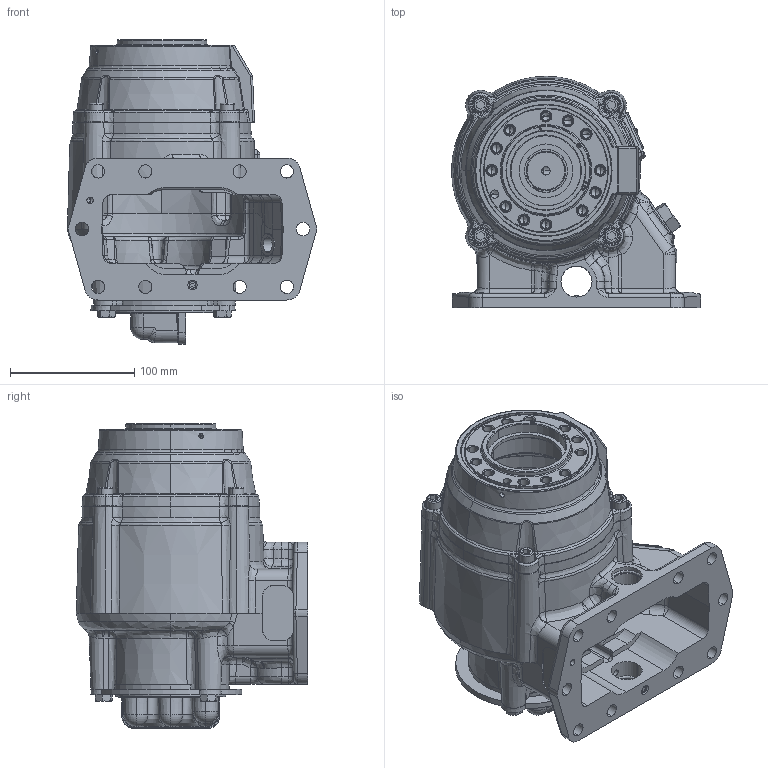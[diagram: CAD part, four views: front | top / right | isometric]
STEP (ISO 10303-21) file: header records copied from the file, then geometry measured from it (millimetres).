
FILE_DESCRIPTION (( 'STEP AP203' ), '1' );
FILE_NAME ('A30-A10XX-MX3BBPX.STEP', '2021-07-19T18:48:40', ( '' ), ( '' ), 'SwSTEP 2.0', 'SolidWorks 2021', '' );
FILE_SCHEMA (( 'CONFIG_CONTROL_DESIGN' ));
Length unit declared in the file: millimetre
Products named in the file (1): A30-A10XX-MX3BBPX
Bounding box: 200.59 x 186.36 x 245.38 mm (x, y, z)
Surface area: 373248.5 mm2 (no closed solid volume)
Topology: 0 solids, 24 shells, 2386 faces, 5845 edges, 3535 vertices
Faces by surface type: bspline 747, plane 671, cylinder 510, cone 313, torus 133, sphere 12
Entity records: 118966 total; most frequent: CARTESIAN_POINT 68441, ORIENTED_EDGE 11462, DIRECTION 9062, EDGE_CURVE 5740, VERTEX_POINT 3535, AXIS2_PLACEMENT_3D 3416, EDGE_LOOP 2596, FACE_OUTER_BOUND 2387
